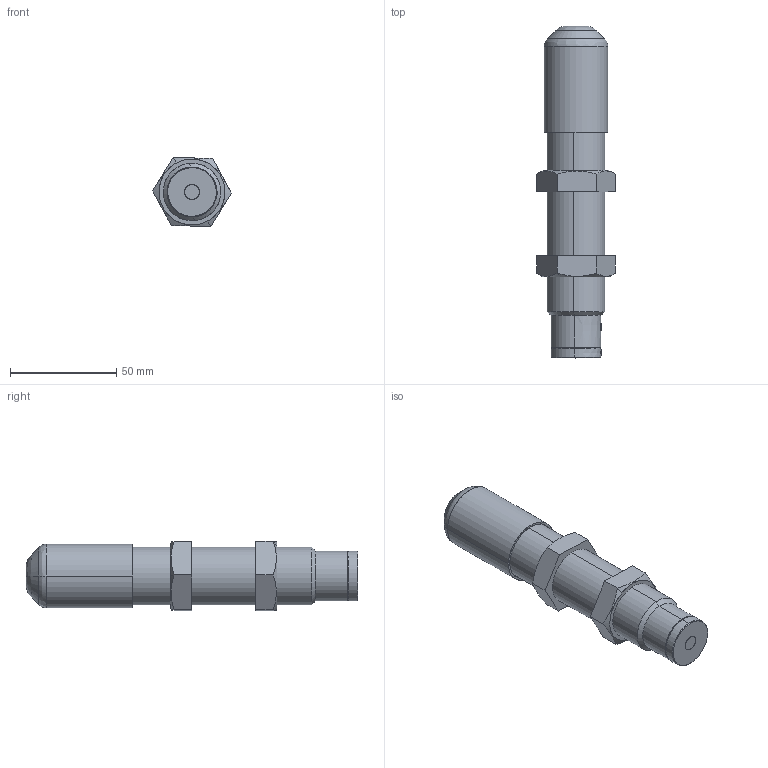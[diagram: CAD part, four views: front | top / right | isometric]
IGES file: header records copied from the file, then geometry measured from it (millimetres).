
Start section: SolidWorks IGES file using analytic representation for surfaces
Global section: file name: Y:\CAD\HP梡CAD僨乕僞\210305_HP峏怴梡\3D\FA-2725FB-C-060.IGS; native system: SolidWorks 2021; preprocessor: SolidWorks 2021; author: flgijutsu; date: 210310.145729; units: millimetre
Bounding box: 36.94 x 156 x 32.48 mm (x, y, z)
Surface area: 21156.9 mm2 (no closed solid volume)
Topology: 0 solids, 0 shells, 66 faces, 1228 edges, 1228 vertices
Faces by surface type: bspline 40, revolution 26
